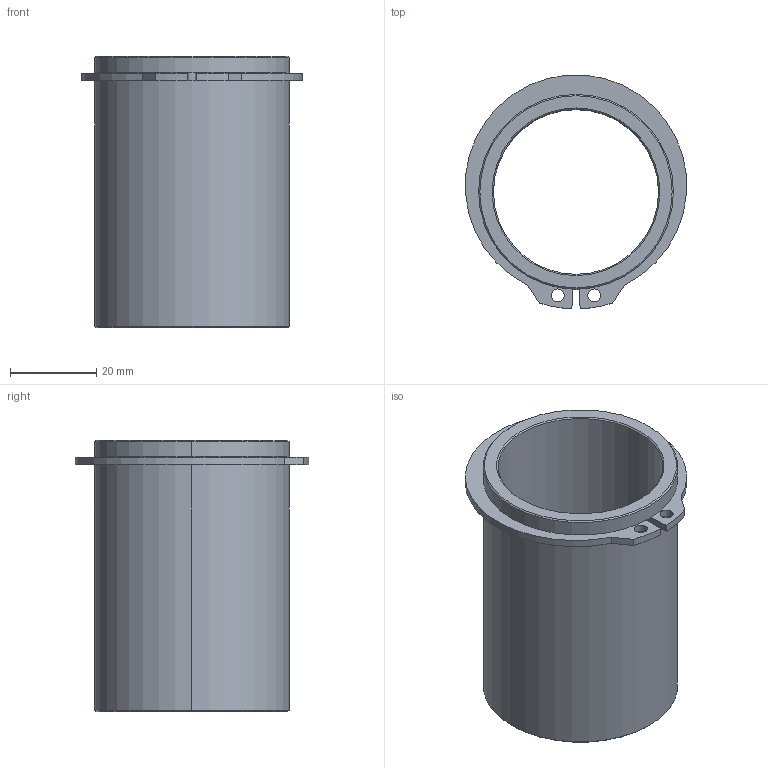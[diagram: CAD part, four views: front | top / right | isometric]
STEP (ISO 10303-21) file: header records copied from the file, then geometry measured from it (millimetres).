
FILE_DESCRIPTION((''),'2;1');
FILE_NAME('C13_038_063.stp','2008-12-17T15:25:16',(''),(''),'Mechanical Desktop 2009','Mechanical Desktop 2009',', , ');
FILE_SCHEMA(('CONFIG_CONTROL_DESIGN'));
Length unit declared in the file: millimetre
Products named in the file (2): Product; blmdl1
Assembly tree (1 placements, depth 2):
  Product
    blmdl1
Bounding box: 51.33 x 54.26 x 63 mm (x, y, z)
Volume: 29392.1 mm3; surface area: 19459.1 mm2
Topology: 2 solids, 2 shells, 34 faces, 76 edges, 48 vertices
Faces by surface type: cylinder 16, plane 10, cone 8
Entity records: 1075 total; most frequent: DIRECTION 188, CARTESIAN_POINT 160, ORIENTED_EDGE 152, AXIS2_PLACEMENT_3D 76, EDGE_CURVE 76, VERTEX_POINT 48, EDGE_LOOP 42, CIRCLE 40
